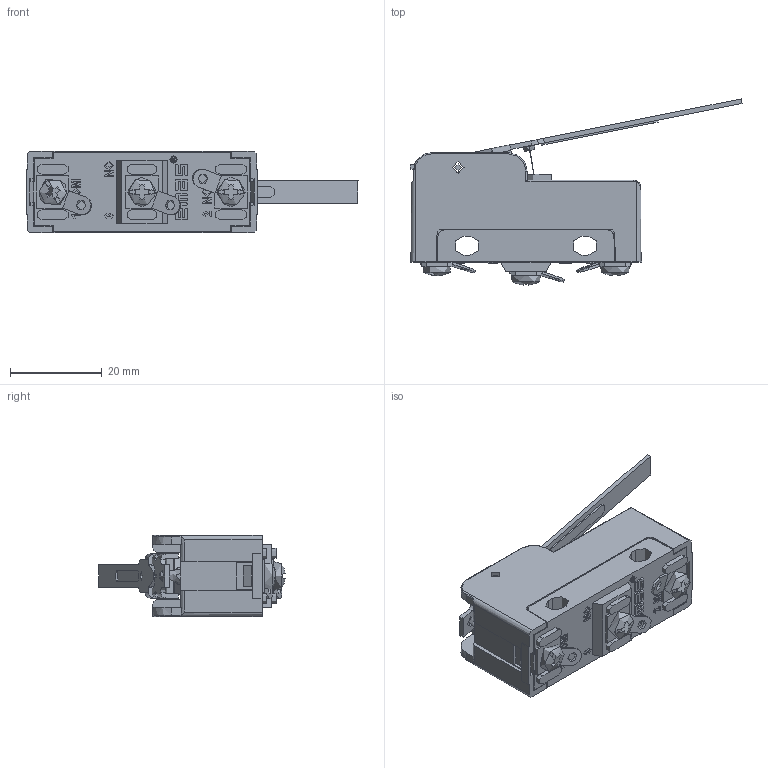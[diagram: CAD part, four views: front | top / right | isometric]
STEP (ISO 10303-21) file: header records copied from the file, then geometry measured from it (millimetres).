
FILE_DESCRIPTION((''),'2; 1');
FILE_NAME('','2026-03-27T16:28:47',(''),(''),'CST STEP Exporter V1.0','Unknown','');
FILE_SCHEMA(('CONFIG_CONTROL_DESIGN'));
Length unit declared in the file: metre
Assembly tree (14 placements, depth 2):
  (unnamed)
    (unnamed)
    (unnamed)
    (unnamed)
    (unnamed)
    (unnamed)
    (unnamed)
    (unnamed)
    (unnamed)
    (unnamed)
    (unnamed)
    (unnamed)
    (unnamed)
    (unnamed)
    (unnamed)
Bounding box: 72.3 x 40.51 x 17.7 mm (x, y, z)
Topology: 0 solids, 50 shells, 550 faces, 1650 edges, 1128 vertices
Faces by surface type: plane 337, cylinder 136, extrusion 55, torus 10, cone 6, sphere 4, bspline 2
Full cylindrical faces by diameter (mm): 1.4 x1, 1.8 x1, 2 x2, 2.2 x3, 2.5 x1, 2.6 x3, 3 x1, 3.9 x1, 7 x1, 8.2 x1
Entity records: 26056 total; most frequent: CARTESIAN_POINT 6510, ORIENTED_EDGE 3031, DIRECTION 2880, EDGE_CURVE 1678, VERTEX_POINT 1158, VECTOR 1142, LINE 1087, AXIS2_PLACEMENT_3D 869
